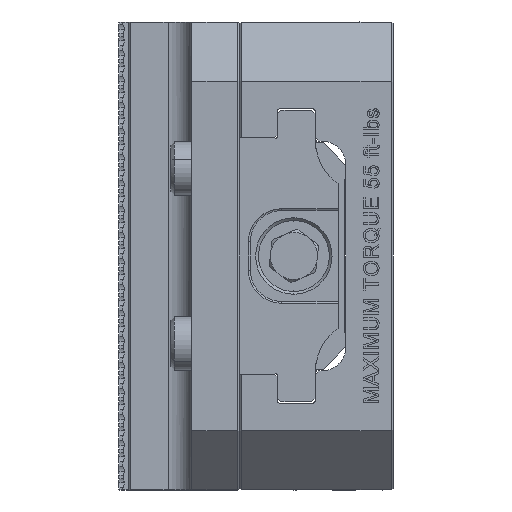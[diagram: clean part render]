
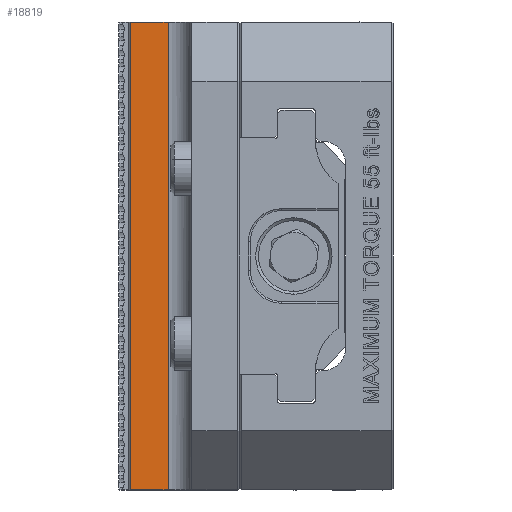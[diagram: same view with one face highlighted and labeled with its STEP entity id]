
A CAD part, left-side view. The second image highlights one B-rep face of the part: STEP entity #18819.
In plain terms, the highlighted planar face has unit normal (-1, 0, 0) as drawn and (1, 0, 0) by its records, which use the part's own axes.
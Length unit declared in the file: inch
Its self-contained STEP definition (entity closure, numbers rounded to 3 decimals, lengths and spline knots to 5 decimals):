
#3505 = EDGE_CURVE ( 'NONE', #117636, #115033, #131135, .T. ) ;
#4205 = CARTESIAN_POINT ( 'NONE',  ( -0.155, 0.515, 2.475 ) ) ;
#13954 = CARTESIAN_POINT ( 'NONE',  ( -0.155, 0.115, 2.475 ) ) ;
#18819 = ADVANCED_FACE ( 'NONE', ( #140359 ), #81412, .F. ) ;
#21556 = LINE ( 'NONE', #145015, #110169 ) ;
#29486 = VERTEX_POINT ( 'NONE', #13954 ) ;
#29547 = ORIENTED_EDGE ( 'NONE', *, *, #45567, .T. ) ;
#33145 = CARTESIAN_POINT ( 'NONE',  ( -0.155, 0.115, -2.475 ) ) ;
#36030 = CARTESIAN_POINT ( 'NONE',  ( -0.155, 0.115, 2.475 ) ) ;
#45567 = EDGE_CURVE ( 'NONE', #70800, #117636, #88238, .T. ) ;
#47360 = EDGE_LOOP ( 'NONE', ( #29547, #132296, #47873, #140342 ) ) ;
#47873 = ORIENTED_EDGE ( 'NONE', *, *, #105805, .F. ) ;
#57167 = VECTOR ( 'NONE', #116383, 39.37008 ) ;
#59168 = DIRECTION ( 'NONE',  ( -1., 0., 0. ) ) ;
#64435 = CARTESIAN_POINT ( 'NONE',  ( -0.155, 0.535, -2.475 ) ) ;
#66164 = AXIS2_PLACEMENT_3D ( 'NONE', #93487, #59168, #139926 ) ;
#70800 = VERTEX_POINT ( 'NONE', #33145 ) ;
#80799 = CARTESIAN_POINT ( 'NONE',  ( -0.155, 0.515, -2.475 ) ) ;
#81412 = PLANE ( 'NONE',  #66164 ) ;
#87475 = DIRECTION ( 'NONE',  ( 0., 1., 0. ) ) ;
#88238 = LINE ( 'NONE', #64435, #135145 ) ;
#93487 = CARTESIAN_POINT ( 'NONE',  ( -0.155, 0.535, 2.475 ) ) ;
#105805 = EDGE_CURVE ( 'NONE', #29486, #115033, #21556, .T. ) ;
#107613 = VECTOR ( 'NONE', #143355, 39.37008 ) ;
#110169 = VECTOR ( 'NONE', #87475, 39.37008 ) ;
#112223 = EDGE_CURVE ( 'NONE', #29486, #70800, #145689, .T. ) ;
#115033 = VERTEX_POINT ( 'NONE', #4205 ) ;
#116383 = DIRECTION ( 'NONE',  ( 0., 0., -1. ) ) ;
#117636 = VERTEX_POINT ( 'NONE', #80799 ) ;
#131135 = LINE ( 'NONE', #131736, #107613 ) ;
#131736 = CARTESIAN_POINT ( 'NONE',  ( -0.155, 0.515, 2.475 ) ) ;
#132296 = ORIENTED_EDGE ( 'NONE', *, *, #3505, .T. ) ;
#135145 = VECTOR ( 'NONE', #145199, 39.37008 ) ;
#139926 = DIRECTION ( 'NONE',  ( 0., -1., 0. ) ) ;
#140342 = ORIENTED_EDGE ( 'NONE', *, *, #112223, .T. ) ;
#140359 = FACE_OUTER_BOUND ( 'NONE', #47360, .T. ) ;
#143355 = DIRECTION ( 'NONE',  ( 0., 0., 1. ) ) ;
#145015 = CARTESIAN_POINT ( 'NONE',  ( -0.155, 0.535, 2.475 ) ) ;
#145199 = DIRECTION ( 'NONE',  ( 0., 1., 0. ) ) ;
#145689 = LINE ( 'NONE', #36030, #57167 ) ;
